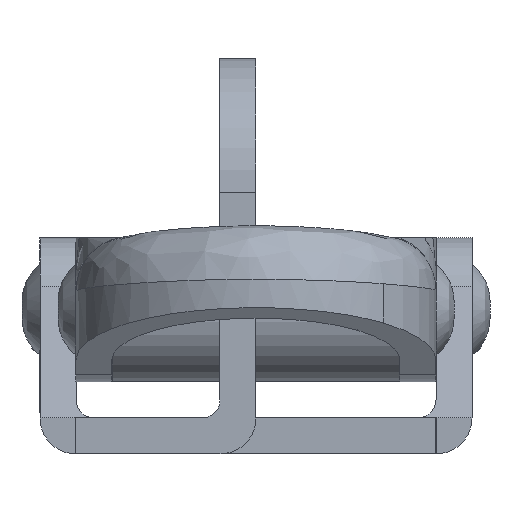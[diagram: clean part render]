
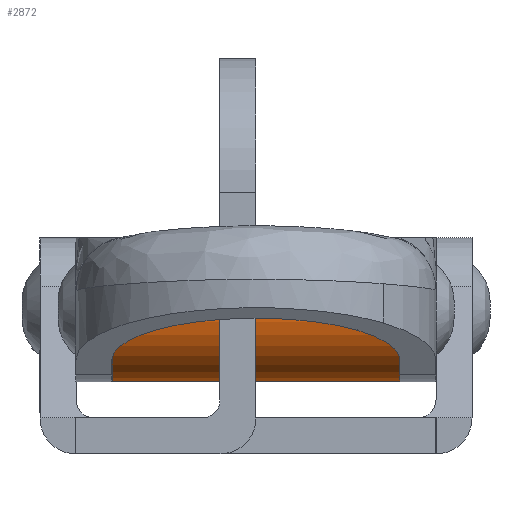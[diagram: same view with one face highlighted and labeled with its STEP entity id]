
A CAD part, left-side view. The second image highlights one B-rep face of the part: STEP entity #2872.
In plain terms, the highlighted cylindrical face has radius 4 mm (diameter 8 mm), a partial arc.
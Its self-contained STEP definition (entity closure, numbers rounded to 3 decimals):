
#2831=CARTESIAN_POINT('',(-16.508,-8.,0.));
#2832=DIRECTION('',(0.0,1.0,0.0));
#2833=DIRECTION('',(1.0,0.0,0.0));
#2834=AXIS2_PLACEMENT_3D('',#2831,#2832,#2833);
#2835=CYLINDRICAL_SURFACE('',#2834,4.0);
#2836=CARTESIAN_POINT('',(-20.508,8.,0.));
#2837=VERTEX_POINT('',#2836);
#2838=CARTESIAN_POINT('',(-20.508,-8.,0.));
#2839=VERTEX_POINT('',#2838);
#2840=CARTESIAN_POINT('',(-20.508,8.,0.));
#2841=DIRECTION('',(0.0,-1.0,0.0));
#2842=VECTOR('',#2841,16.0);
#2843=LINE('',#2840,#2842);
#2844=EDGE_CURVE('',#2837,#2839,#2843,.T.);
#2845=ORIENTED_EDGE('',*,*,#2844,.F.);
#2846=CARTESIAN_POINT('',(-13.044,8.,-2.));
#2847=VERTEX_POINT('',#2846);
#2848=CARTESIAN_POINT('',(-16.508,8.,0.));
#2849=DIRECTION('',(0.0,-1.0,0.0));
#2850=DIRECTION('',(1.0,0.0,0.0));
#2851=AXIS2_PLACEMENT_3D('',#2848,#2849,#2850);
#2852=CIRCLE('',#2851,4.0);
#2853=EDGE_CURVE('',#2837,#2847,#2852,.T.);
#2854=ORIENTED_EDGE('',*,*,#2853,.T.);
#2855=CARTESIAN_POINT('',(-13.044,-8.,-2.));
#2856=VERTEX_POINT('',#2855);
#2857=CARTESIAN_POINT('',(-13.044,-8.,-2.));
#2858=DIRECTION('',(0.0,1.0,0.0));
#2859=VECTOR('',#2858,16.0);
#2860=LINE('',#2857,#2859);
#2861=EDGE_CURVE('',#2856,#2847,#2860,.T.);
#2862=ORIENTED_EDGE('',*,*,#2861,.F.);
#2863=CARTESIAN_POINT('',(-16.508,-8.,0.));
#2864=DIRECTION('',(0.0,-1.0,0.0));
#2865=DIRECTION('',(1.0,0.0,0.0));
#2866=AXIS2_PLACEMENT_3D('',#2863,#2864,#2865);
#2867=CIRCLE('',#2866,4.0);
#2868=EDGE_CURVE('',#2839,#2856,#2867,.T.);
#2869=ORIENTED_EDGE('',*,*,#2868,.F.);
#2870=EDGE_LOOP('',(#2845,#2854,#2862,#2869));
#2871=FACE_OUTER_BOUND('',#2870,.T.);
#2872=ADVANCED_FACE('',(#2871),#2835,.T.);
